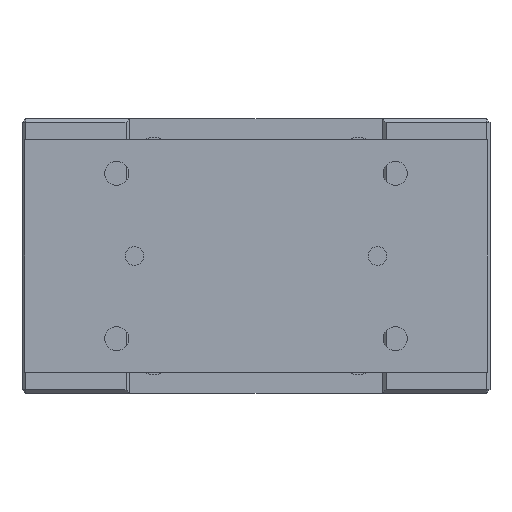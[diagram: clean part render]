
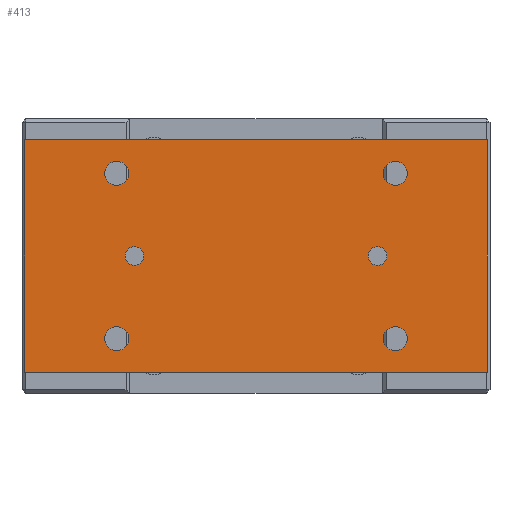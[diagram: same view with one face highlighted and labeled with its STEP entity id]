
A CAD part, left-side view. The second image highlights one B-rep face of the part: STEP entity #413.
In plain terms, the highlighted planar face has unit normal (-1, 0, 0).
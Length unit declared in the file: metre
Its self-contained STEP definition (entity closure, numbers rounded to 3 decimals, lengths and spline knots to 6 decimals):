
#413 = ADVANCED_FACE( '', ( #1027, #1028, #1029, #1030, #1031, #1032, #1033 ), #1034, .T. );
#1027 = FACE_BOUND( '', #1917, .T. );
#1028 = FACE_BOUND( '', #1918, .T. );
#1029 = FACE_BOUND( '', #1919, .T. );
#1030 = FACE_BOUND( '', #1920, .T. );
#1031 = FACE_BOUND( '', #1921, .T. );
#1032 = FACE_BOUND( '', #1922, .T. );
#1033 = FACE_OUTER_BOUND( '', #1923, .T. );
#1034 = PLANE( '', #1924 );
#1917 = EDGE_LOOP( '', ( #3045 ) );
#1918 = EDGE_LOOP( '', ( #3046 ) );
#1919 = EDGE_LOOP( '', ( #3047 ) );
#1920 = EDGE_LOOP( '', ( #3048 ) );
#1921 = EDGE_LOOP( '', ( #3049 ) );
#1922 = EDGE_LOOP( '', ( #3050 ) );
#1923 = EDGE_LOOP( '', ( #3051, #3052, #3053, #3054 ) );
#1924 = AXIS2_PLACEMENT_3D( '', #3055, #3056, #3057 );
#3045 = ORIENTED_EDGE( '', *, *, #4543, .F. );
#3046 = ORIENTED_EDGE( '', *, *, #4401, .T. );
#3047 = ORIENTED_EDGE( '', *, *, #4544, .F. );
#3048 = ORIENTED_EDGE( '', *, *, #4545, .F. );
#3049 = ORIENTED_EDGE( '', *, *, #4473, .F. );
#3050 = ORIENTED_EDGE( '', *, *, #4306, .F. );
#3051 = ORIENTED_EDGE( '', *, *, #4546, .T. );
#3052 = ORIENTED_EDGE( '', *, *, #4547, .T. );
#3053 = ORIENTED_EDGE( '', *, *, #4548, .T. );
#3054 = ORIENTED_EDGE( '', *, *, #4549, .T. );
#3055 = CARTESIAN_POINT( '', ( -0.143, -0.1245, -0.0115 ) );
#3056 = DIRECTION( '', ( -1., 0., 0. ) );
#3057 = DIRECTION( '', ( 0., 0., 1. ) );
#4306 = EDGE_CURVE( '', #4963, #4963, #4964, .T. );
#4401 = EDGE_CURVE( '', #5124, #5124, #5125, .T. );
#4473 = EDGE_CURVE( '', #5240, #5240, #5241, .T. );
#4543 = EDGE_CURVE( '', #5346, #5346, #5347, .T. );
#4544 = EDGE_CURVE( '', #5348, #5348, #5349, .T. );
#4545 = EDGE_CURVE( '', #5350, #5350, #5351, .T. );
#4546 = EDGE_CURVE( '', #5352, #5353, #5354, .T. );
#4547 = EDGE_CURVE( '', #5353, #5355, #5356, .T. );
#4548 = EDGE_CURVE( '', #5355, #5357, #5358, .T. );
#4549 = EDGE_CURVE( '', #5357, #5352, #5359, .T. );
#4963 = VERTEX_POINT( '', #5906 );
#4964 = CIRCLE( '', #5907, 0.0065 );
#5124 = VERTEX_POINT( '', #6181 );
#5125 = CIRCLE( '', #6182, 0.005 );
#5240 = VERTEX_POINT( '', #6336 );
#5241 = CIRCLE( '', #6337, 0.0065 );
#5346 = VERTEX_POINT( '', #6558 );
#5347 = CIRCLE( '', #6559, 0.005 );
#5348 = VERTEX_POINT( '', #6560 );
#5349 = CIRCLE( '', #6561, 0.0065 );
#5350 = VERTEX_POINT( '', #6562 );
#5351 = CIRCLE( '', #6563, 0.0065 );
#5352 = VERTEX_POINT( '', #6564 );
#5353 = VERTEX_POINT( '', #6565 );
#5354 = LINE( '', #6566, #6567 );
#5355 = VERTEX_POINT( '', #6568 );
#5356 = LINE( '', #6569, #6570 );
#5357 = VERTEX_POINT( '', #6571 );
#5358 = LINE( '', #6572, #6573 );
#5359 = LINE( '', #6574, #6575 );
#5906 = CARTESIAN_POINT( '', ( -0.143, 0.075, -0.023 ) );
#5907 = AXIS2_PLACEMENT_3D( '', #7313, #7314, #7315 );
#6181 = CARTESIAN_POINT( '', ( -0.143, 0.0705, -0.074 ) );
#6182 = AXIS2_PLACEMENT_3D( '', #7430, #7431, #7432 );
#6336 = CARTESIAN_POINT( '', ( -0.143, -0.075, -0.023 ) );
#6337 = AXIS2_PLACEMENT_3D( '', #7508, #7509, #7510 );
#6558 = CARTESIAN_POINT( '', ( -0.143, -0.0705, -0.074 ) );
#6559 = AXIS2_PLACEMENT_3D( '', #7600, #7601, #7602 );
#6560 = CARTESIAN_POINT( '', ( -0.143, -0.075, -0.112 ) );
#6561 = AXIS2_PLACEMENT_3D( '', #7603, #7604, #7605 );
#6562 = CARTESIAN_POINT( '', ( -0.143, 0.075, -0.112 ) );
#6563 = AXIS2_PLACEMENT_3D( '', #7606, #7607, #7608 );
#6564 = CARTESIAN_POINT( '', ( -0.143, -0.1245, -0.1365 ) );
#6565 = CARTESIAN_POINT( '', ( -0.143, -0.1245, -0.0115 ) );
#6566 = CARTESIAN_POINT( '', ( -0.143, -0.1245, -0.1365 ) );
#6567 = VECTOR( '', #7609, 1. );
#6568 = CARTESIAN_POINT( '', ( -0.143, 0.1245, -0.0115 ) );
#6569 = CARTESIAN_POINT( '', ( -0.143, -0.1245, -0.0115 ) );
#6570 = VECTOR( '', #7610, 1. );
#6571 = CARTESIAN_POINT( '', ( -0.143, 0.1245, -0.1365 ) );
#6572 = CARTESIAN_POINT( '', ( -0.143, 0.1245, -0.0115 ) );
#6573 = VECTOR( '', #7611, 1. );
#6574 = CARTESIAN_POINT( '', ( -0.143, 0.1245, -0.1365 ) );
#6575 = VECTOR( '', #7612, 1. );
#7313 = CARTESIAN_POINT( '', ( -0.143, 0.075, -0.0295 ) );
#7314 = DIRECTION( '', ( -1., 0., 0. ) );
#7315 = DIRECTION( '', ( 0., 0., 1. ) );
#7430 = CARTESIAN_POINT( '', ( -0.143, 0.0655, -0.074 ) );
#7431 = DIRECTION( '', ( 1., 0., 0. ) );
#7432 = DIRECTION( '', ( 0., 1., 0. ) );
#7508 = CARTESIAN_POINT( '', ( -0.143, -0.075, -0.0295 ) );
#7509 = DIRECTION( '', ( -1., 0., 0. ) );
#7510 = DIRECTION( '', ( 0., 0., 1. ) );
#7600 = CARTESIAN_POINT( '', ( -0.143, -0.0655, -0.074 ) );
#7601 = DIRECTION( '', ( -1., 0., 0. ) );
#7602 = DIRECTION( '', ( 0., -1., 0. ) );
#7603 = CARTESIAN_POINT( '', ( -0.143, -0.075, -0.1185 ) );
#7604 = DIRECTION( '', ( -1., 0., 0. ) );
#7605 = DIRECTION( '', ( 0., 0., 1. ) );
#7606 = CARTESIAN_POINT( '', ( -0.143, 0.075, -0.1185 ) );
#7607 = DIRECTION( '', ( -1., 0., 0. ) );
#7608 = DIRECTION( '', ( 0., 0., 1. ) );
#7609 = DIRECTION( '', ( 0., 0., 1. ) );
#7610 = DIRECTION( '', ( 0., 1., 0. ) );
#7611 = DIRECTION( '', ( 0., 0., -1. ) );
#7612 = DIRECTION( '', ( 0., -1., 0. ) );
